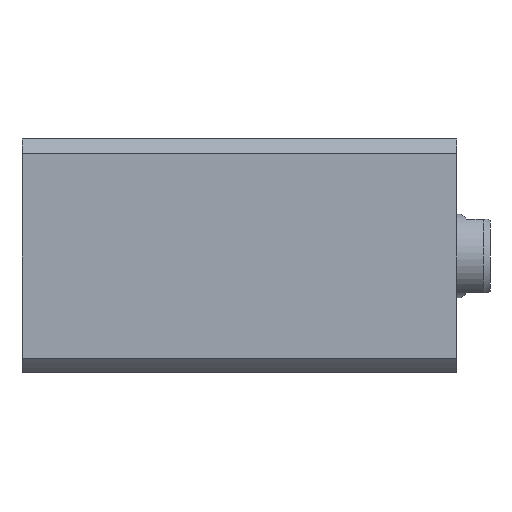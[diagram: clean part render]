
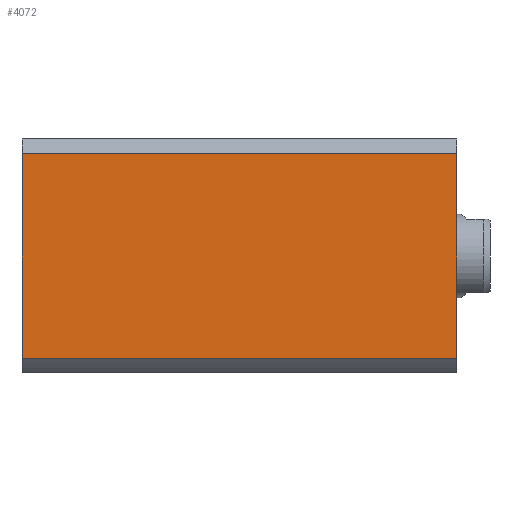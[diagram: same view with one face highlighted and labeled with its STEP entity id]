
A CAD part, left-side view. The second image highlights one B-rep face of the part: STEP entity #4072.
In plain terms, the highlighted planar face has unit normal (-1, 0, 0).
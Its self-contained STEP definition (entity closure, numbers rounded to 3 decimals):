
#526 = EDGE_CURVE ( 'NONE', #7207, #553, #8007, .T. ) ;
#553 = VERTEX_POINT ( 'NONE', #2208 ) ;
#753 = ORIENTED_EDGE ( 'NONE', *, *, #4319, .F. ) ;
#1198 = FACE_OUTER_BOUND ( 'NONE', #5444, .T. ) ;
#1410 = CARTESIAN_POINT ( 'NONE',  ( -35., -30.615, 130. ) ) ;
#1443 = LINE ( 'NONE', #2873, #7445 ) ;
#2208 = CARTESIAN_POINT ( 'NONE',  ( -35., 30.615, 130. ) ) ;
#2242 = CARTESIAN_POINT ( 'NONE',  ( -35., 30.615, 300. ) ) ;
#2384 = DIRECTION ( 'NONE',  ( 0., 0., 1. ) ) ;
#2873 = CARTESIAN_POINT ( 'NONE',  ( -35., 35., 0. ) ) ;
#3153 = VECTOR ( 'NONE', #6316, 1000. ) ;
#3489 = PLANE ( 'NONE',  #5697 ) ;
#3654 = DIRECTION ( 'NONE',  ( 0., -1., 0. ) ) ;
#4072 = ADVANCED_FACE ( 'NONE', ( #1198 ), #3489, .F. ) ;
#4127 = LINE ( 'NONE', #8511, #5971 ) ;
#4286 = DIRECTION ( 'NONE',  ( 0., 1., 0. ) ) ;
#4319 = EDGE_CURVE ( 'NONE', #7971, #7853, #4127, .T. ) ;
#4514 = ORIENTED_EDGE ( 'NONE', *, *, #4969, .T. ) ;
#4519 = EDGE_CURVE ( 'NONE', #553, #7971, #7328, .T. ) ;
#4664 = ORIENTED_EDGE ( 'NONE', *, *, #4519, .F. ) ;
#4969 = EDGE_CURVE ( 'NONE', #7207, #7853, #1443, .T. ) ;
#5444 = EDGE_LOOP ( 'NONE', ( #753, #4664, #6663, #4514 ) ) ;
#5697 = AXIS2_PLACEMENT_3D ( 'NONE', #6585, #9038, #4286 ) ;
#5971 = VECTOR ( 'NONE', #6147, 1000. ) ;
#6147 = DIRECTION ( 'NONE',  ( 0., 0., -1. ) ) ;
#6316 = DIRECTION ( 'NONE',  ( 0., -1., 0. ) ) ;
#6585 = CARTESIAN_POINT ( 'NONE',  ( -35., 35., 130. ) ) ;
#6606 = CARTESIAN_POINT ( 'NONE',  ( -35., -30.615, 0. ) ) ;
#6663 = ORIENTED_EDGE ( 'NONE', *, *, #526, .F. ) ;
#7109 = CARTESIAN_POINT ( 'NONE',  ( -35., 35., 130. ) ) ;
#7207 = VERTEX_POINT ( 'NONE', #8911 ) ;
#7328 = LINE ( 'NONE', #7109, #3153 ) ;
#7445 = VECTOR ( 'NONE', #3654, 1000. ) ;
#7738 = VECTOR ( 'NONE', #2384, 1000. ) ;
#7853 = VERTEX_POINT ( 'NONE', #6606 ) ;
#7971 = VERTEX_POINT ( 'NONE', #1410 ) ;
#8007 = LINE ( 'NONE', #2242, #7738 ) ;
#8511 = CARTESIAN_POINT ( 'NONE',  ( -35., -30.615, 300. ) ) ;
#8911 = CARTESIAN_POINT ( 'NONE',  ( -35., 30.615, 0. ) ) ;
#9038 = DIRECTION ( 'NONE',  ( 1., 0., 0. ) ) ;
